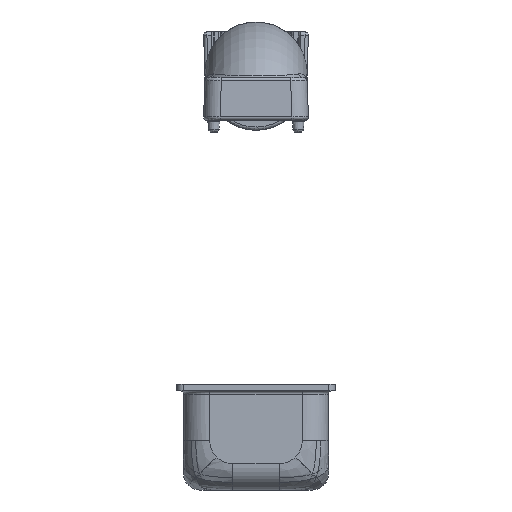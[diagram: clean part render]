
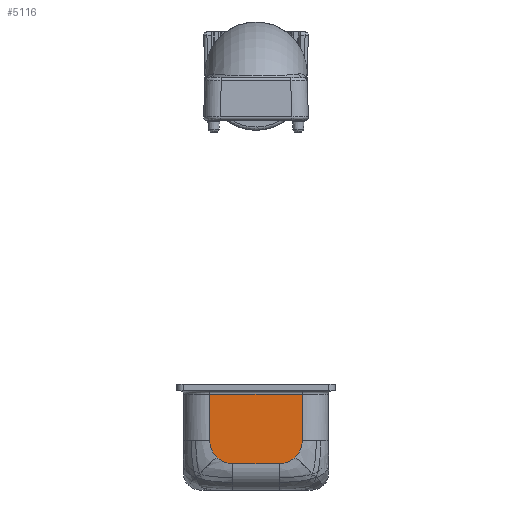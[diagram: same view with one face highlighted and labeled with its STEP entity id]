
A CAD part, left-side view. The second image highlights one B-rep face of the part: STEP entity #5116.
In plain terms, the highlighted planar face has unit normal (-1, 0, 0).
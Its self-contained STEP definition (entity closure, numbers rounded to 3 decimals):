
#1124=CARTESIAN_POINT('',(-239.,-5.975,-10.975));
#1125=VERTEX_POINT('',#1124);
#1135=CARTESIAN_POINT('',(-239.,-3.5,-12.));
#1136=VERTEX_POINT('',#1135);
#1137=CARTESIAN_POINT('',(-239.,-3.5,-8.5));
#1138=DIRECTION('',(1.0,0.0,0.0));
#1139=DIRECTION('',(0.0,-0.707,-0.707));
#1140=AXIS2_PLACEMENT_3D('',#1137,#1138,#1139);
#1141=CIRCLE('',#1140,3.5);
#1142=EDGE_CURVE('',#1125,#1136,#1141,.T.);
#1486=CARTESIAN_POINT('',(-239.,5.975,-10.975));
#1487=VERTEX_POINT('',#1486);
#1497=CARTESIAN_POINT('',(-239.,7.,-8.5));
#1498=VERTEX_POINT('',#1497);
#1499=CARTESIAN_POINT('',(-239.,3.5,-8.5));
#1500=DIRECTION('',(1.0,0.0,0.0));
#1501=DIRECTION('',(0.0,0.707,-0.707));
#1502=AXIS2_PLACEMENT_3D('',#1499,#1500,#1501);
#1503=CIRCLE('',#1502,3.5);
#1504=EDGE_CURVE('',#1487,#1498,#1503,.T.);
#4981=CARTESIAN_POINT('',(-239.,-7.,-1.5));
#4982=VERTEX_POINT('',#4981);
#5007=CARTESIAN_POINT('',(-239.,7.,-1.5));
#5008=VERTEX_POINT('',#5007);
#5016=CARTESIAN_POINT('',(-239.,7.0,-1.5));
#5017=DIRECTION('',(0.0,-1.0,0.0));
#5018=VECTOR('',#5017,14.);
#5019=LINE('',#5016,#5018);
#5020=EDGE_CURVE('',#5008,#4982,#5019,.T.);
#5070=CARTESIAN_POINT('',(-239.,11.0,0.0));
#5071=DIRECTION('',(-1.0,0.0,0.0));
#5072=DIRECTION('',(0.0,0.0,1.0));
#5073=AXIS2_PLACEMENT_3D('',#5070,#5071,#5072);
#5074=PLANE('',#5073);
#5075=ORIENTED_EDGE('',*,*,#5020,.F.);
#5076=CARTESIAN_POINT('',(-239.,7.,-8.5));
#5077=DIRECTION('',(0.0,0.0,1.0));
#5078=VECTOR('',#5077,7.);
#5079=LINE('',#5076,#5078);
#5080=EDGE_CURVE('',#1498,#5008,#5079,.T.);
#5081=ORIENTED_EDGE('',*,*,#5080,.F.);
#5082=ORIENTED_EDGE('',*,*,#1504,.F.);
#5083=CARTESIAN_POINT('',(-239.,3.5,-12.));
#5084=VERTEX_POINT('',#5083);
#5085=CARTESIAN_POINT('',(-239.,3.5,-8.5));
#5086=DIRECTION('',(1.0,0.0,0.0));
#5087=DIRECTION('',(0.0,0.707,-0.707));
#5088=AXIS2_PLACEMENT_3D('',#5085,#5086,#5087);
#5089=CIRCLE('',#5088,3.5);
#5090=EDGE_CURVE('',#5084,#1487,#5089,.T.);
#5091=ORIENTED_EDGE('',*,*,#5090,.F.);
#5092=CARTESIAN_POINT('',(-239.,-3.5,-12.));
#5093=DIRECTION('',(0.0,1.0,0.0));
#5094=VECTOR('',#5093,7.);
#5095=LINE('',#5092,#5094);
#5096=EDGE_CURVE('',#1136,#5084,#5095,.T.);
#5097=ORIENTED_EDGE('',*,*,#5096,.F.);
#5098=ORIENTED_EDGE('',*,*,#1142,.F.);
#5099=CARTESIAN_POINT('',(-239.,-7.,-8.5));
#5100=VERTEX_POINT('',#5099);
#5101=CARTESIAN_POINT('',(-239.,-3.5,-8.5));
#5102=DIRECTION('',(1.0,0.0,0.0));
#5103=DIRECTION('',(0.0,-0.707,-0.707));
#5104=AXIS2_PLACEMENT_3D('',#5101,#5102,#5103);
#5105=CIRCLE('',#5104,3.5);
#5106=EDGE_CURVE('',#5100,#1125,#5105,.T.);
#5107=ORIENTED_EDGE('',*,*,#5106,.F.);
#5108=CARTESIAN_POINT('',(-239.,-7.,-1.5));
#5109=DIRECTION('',(0.0,0.0,-1.0));
#5110=VECTOR('',#5109,7.);
#5111=LINE('',#5108,#5110);
#5112=EDGE_CURVE('',#4982,#5100,#5111,.T.);
#5113=ORIENTED_EDGE('',*,*,#5112,.F.);
#5114=EDGE_LOOP('',(#5075,#5081,#5082,#5091,#5097,#5098,#5107,#5113));
#5115=FACE_OUTER_BOUND('',#5114,.T.);
#5116=ADVANCED_FACE('',(#5115),#5074,.T.);
